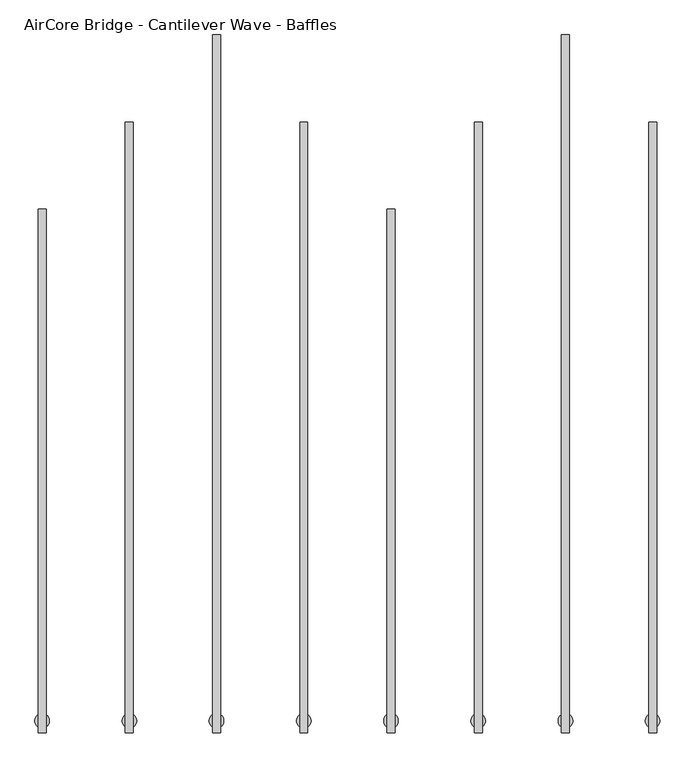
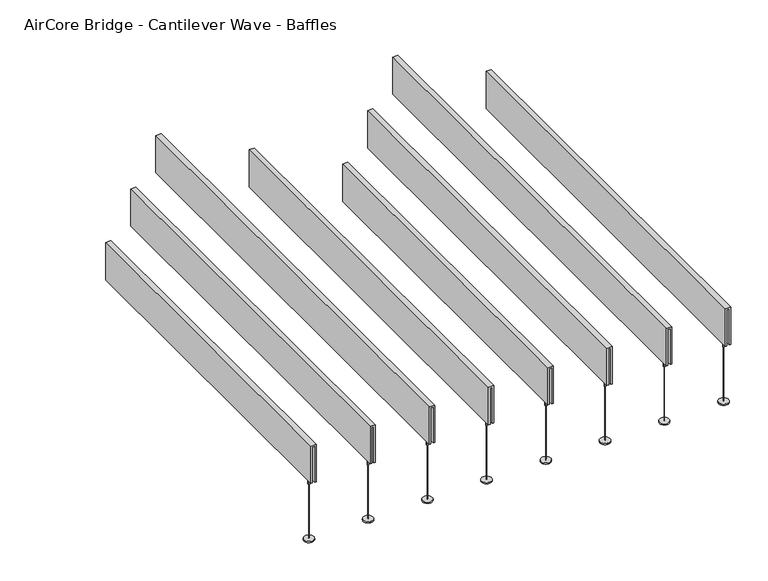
"""IFC4 building model written with IfcOpenShell, lengths in millimetres: light fixture geometry, Baffles_Fixture-Focal_Point-AirCore_Bridge-Cantilever_Wave : AirCore Bridge - Cantilever Wave - Baffles."""

import ifcopenshell
import ifcopenshell.guid

model = None  # the IFC model being written
_history = None  # IfcOwnerHistory: only IFC2X3 demands one
_inside = {}  # id of a spatial element -> (the spatial element, [elements in it])
_under = {}  # id of a project, library or spatial element -> (it, [spatial elements below it])
_declared = {}  # id of a project -> (the project, [libraries it declares])
_typed = {}  # id of a type object -> (the type object, [elements of that type])
_made_of = {}  # id of a material, layer set ... -> (it, [elements and type objects made of it])


def new_model(schema):
    """Start an empty IFC model of exactly this schema.

    Asked for "IFC4X3", IfcOpenShell would pick the latest addendum, in which some entities
    have other attributes; the version numbers below select the first issue.
    IFC2X3 requires an IfcOwnerHistory on every rooted entity: one is made here for all.
    """
    global model, _history
    if schema == "IFC4X3":
        model = ifcopenshell.file(schema_version=(4, 3, 0, 0))
    else:
        model = ifcopenshell.file(schema=schema)
    _inside.clear()
    _under.clear()
    _declared.clear()
    _typed.clear()
    _made_of.clear()
    _history = None
    if model.schema == "IFC2X3":
        org = make("IfcOrganization", Name="unknown")
        user = make(
            "IfcPersonAndOrganization",
            ThePerson=make("IfcPerson", FamilyName="unknown"),
            TheOrganization=org,
        )
        app = make(
            "IfcApplication",
            ApplicationDeveloper=org,
            Version="unknown",
            ApplicationFullName="unknown",
            ApplicationIdentifier="unknown",
        )
        _history = make(
            "IfcOwnerHistory",
            OwningUser=user,
            OwningApplication=app,
            ChangeAction="ADDED",
            CreationDate=0,
        )
    return model


def make(cls, **values):
    """One entity of the class cls with the attributes given. An attribute that is None is left unset."""
    return model.create_entity(
        cls, **{name: value for name, value in values.items() if value is not None}
    )


def rooted(cls, **values):
    """An entity with a GlobalId (a new one), such as an element, a storey or a relation."""
    return make(cls, GlobalId=ifcopenshell.guid.new(), OwnerHistory=_history, **values)


def si_unit(unit_type, name, prefix=None):
    """IfcSIUnit, for example si_unit("LENGTHUNIT", "METRE", prefix="MILLI")."""
    return make("IfcSIUnit", UnitType=unit_type, Prefix=prefix, Name=name)


def assignment(units):
    """IfcUnitAssignment: the units of a project."""
    return None if units is None else make("IfcUnitAssignment", Units=units)


def point(xyz):
    """IfcCartesianPoint."""
    return None if xyz is None else make("IfcCartesianPoint", Coordinates=xyz)


def direction(xyz):
    """IfcDirection."""
    return None if xyz is None else make("IfcDirection", DirectionRatios=xyz)


def frame(location, z_axis=None, x_axis=None):
    """IfcAxis2Placement3D, a coordinate frame: its origin and axes. An axis left out is left unset."""
    return make(
        "IfcAxis2Placement3D",
        Location=point(location),
        Axis=direction(z_axis),
        RefDirection=direction(x_axis),
    )


def frame_2d(location, x_axis=None):
    """IfcAxis2Placement2D, a coordinate frame in the plane: its origin and x axis."""
    return make(
        "IfcAxis2Placement2D", Location=point(location), RefDirection=direction(x_axis)
    )


def origin():
    """The frame at (0, 0, 0) with its axes left unset."""
    return frame((0.0, 0.0, 0.0))


def origin_with_axes():
    """The frame at (0, 0, 0) with the z axis (0, 0, 1) and the x axis (1, 0, 0) written out."""
    return frame((0.0, 0.0, 0.0), z_axis=(0.0, 0.0, 1.0), x_axis=(1.0, 0.0, 0.0))


def place(relative_to, where):
    """IfcLocalPlacement: puts the frame where relative to a parent placement (None: the world)."""
    return make(
        "IfcLocalPlacement", PlacementRelTo=relative_to, RelativePlacement=where
    )


def context(
    kind, dimensions, precision=None, world=None, true_north=None, identifier=None
):
    """IfcGeometricRepresentationContext, for example the 3D "Model" context."""
    return make(
        "IfcGeometricRepresentationContext",
        ContextIdentifier=identifier,
        ContextType=kind,
        CoordinateSpaceDimension=dimensions,
        Precision=precision,
        WorldCoordinateSystem=world,
        TrueNorth=true_north,
    )


def project(units=None, contexts=None):
    """IfcProject with its units and contexts."""
    return rooted(
        "IfcProject",
        Name="project",
        RepresentationContexts=contexts,
        UnitsInContext=assignment(units),
    )


def spatial(cls, under=None, at=None, **own):
    """A site, building, storey or space (cls), placed at a placement, below another one or the project."""
    s = rooted(cls, ObjectPlacement=at, **own)
    if under is not None:
        _under.setdefault(under.id(), (under, []))[1].append(s)
    return s


def polyline(points):
    """IfcPolyline through the points."""
    return make("IfcPolyline", Points=[point(p) for p in points])


def circle_curve(where, radius):
    """IfcCircle in the frame where."""
    return make("IfcCircle", Position=where, Radius=radius)


def trimmed(basis, trim1, trim2, sense, master):
    """IfcTrimmedCurve: the piece of a basis curve between two trims."""
    return make(
        "IfcTrimmedCurve",
        BasisCurve=basis,
        Trim1=trim1,
        Trim2=trim2,
        SenseAgreement=sense,
        MasterRepresentation=master,
    )


def segment(curve, same_sense, transition):
    """IfcCompositeCurveSegment."""
    return make(
        "IfcCompositeCurveSegment",
        Transition=transition,
        SameSense=same_sense,
        ParentCurve=curve,
    )


def composite_curve(segments, self_intersect=None):
    """IfcCompositeCurve: segments joined end to end."""
    return make("IfcCompositeCurve", Segments=segments, SelfIntersect=self_intersect)


def outline(outer, holes=None, kind="AREA"):
    """IfcArbitraryClosedProfileDef: a profile drawn as a closed curve; with holes, ...WithVoids."""
    if holes is None:
        return make("IfcArbitraryClosedProfileDef", ProfileType=kind, OuterCurve=outer)
    return make(
        "IfcArbitraryProfileDefWithVoids",
        ProfileType=kind,
        OuterCurve=outer,
        InnerCurves=holes,
    )


def extrude(swept, where, along, depth):
    """IfcExtrudedAreaSolid: the profile swept, set in the frame where, extruded along a direction by depth."""
    return make(
        "IfcExtrudedAreaSolid",
        SweptArea=swept,
        Position=where,
        ExtrudedDirection=direction(along),
        Depth=depth,
    )


def shape(context_of_items, identifier, shape_type, items):
    """IfcShapeRepresentation: the items that make up one representation, for example the "Body"."""
    return make(
        "IfcShapeRepresentation",
        ContextOfItems=context_of_items,
        RepresentationIdentifier=identifier,
        RepresentationType=shape_type,
        Items=items,
    )


def source(mapping_origin, context_of_items, identifier, shape_type, items):
    """IfcRepresentationMap: a shape defined once, which mapped items show again and again."""
    return make(
        "IfcRepresentationMap",
        MappingOrigin=mapping_origin,
        MappedRepresentation=shape(context_of_items, identifier, shape_type, items),
    )


def transform(
    local_origin,
    x_axis=None,
    y_axis=None,
    z_axis=None,
    scale=None,
    scale2=None,
    scale3=None,
    uniform=True,
):
    """IfcCartesianTransformationOperator3D, or its non-uniform kind. x_axis, y_axis, z_axis: its Axis1, 2, 3."""
    if uniform:
        return make(
            "IfcCartesianTransformationOperator3D",
            Axis1=direction(x_axis),
            Axis2=direction(y_axis),
            LocalOrigin=point(local_origin),
            Scale=scale,
            Axis3=direction(z_axis),
        )
    return make(
        "IfcCartesianTransformationOperator3DnonUniform",
        Axis1=direction(x_axis),
        Axis2=direction(y_axis),
        LocalOrigin=point(local_origin),
        Scale=scale,
        Axis3=direction(z_axis),
        Scale2=scale2,
        Scale3=scale3,
    )


def mapped(mapping_source, mapping_target):
    """IfcMappedItem: shows the shape of a source again, moved by a transform."""
    return make(
        "IfcMappedItem", MappingSource=mapping_source, MappingTarget=mapping_target
    )


def made_of(thing, what):
    """Note that an element or type object is made of a material, layer set ...; save() writes the relation."""
    if what is not None:
        _made_of.setdefault(what.id(), (what, []))[1].append(thing)
    return thing


def element(
    cls,
    number,
    at=None,
    inside=None,
    cuts=None,
    type_object=None,
    material=None,
    context=None,
    identifier="Body",
    shape_type=None,
    held_by="IfcProductDefinitionShape",
    body=None,
    shapes=None,
    **own,
):
    """One element of the class cls, such as IfcWall. Its Tag is "e" and its number.

    at: its placement. inside: the storey or other place that contains it. cuts: it is an
    opening in that element (IfcRelVoidsElement). A single representation is given by context,
    identifier, shape_type and body (its items); several are given by shapes. held_by: the class
    of the entity that holds the representations. save() writes the other relations.
    """
    e = rooted(cls, Tag="e%d" % number, ObjectPlacement=at, **own)
    if body is not None:
        shapes = [shape(context, identifier, shape_type, body)]
    if shapes is not None:
        e.Representation = make(held_by, Representations=shapes)
    if inside is not None:
        _inside.setdefault(inside.id(), (inside, []))[1].append(e)
    if cuts is not None:
        rooted(
            "IfcRelVoidsElement", RelatingBuildingElement=cuts, RelatedOpeningElement=e
        )
    if type_object is not None:
        _typed.setdefault(type_object.id(), (type_object, []))[1].append(e)
    return made_of(e, material)


def aggregate(whole, parts):
    """IfcRelAggregates: a whole, such as a stair, and the parts it consists of."""
    return rooted("IfcRelAggregates", RelatingObject=whole, RelatedObjects=parts)


def save(model, path):
    """Write the relations noted so far, then the file.

    IfcRelAggregates (storeys below a building ...), IfcRelContainedInSpatialStructure (elements
    in a storey), IfcRelDefinesByType, IfcRelAssociatesMaterial and IfcRelDeclares: one each for
    every whole, place, type object, material and project.
    """
    for whole, parts in _under.values():
        aggregate(whole, parts)
    for where, things in _inside.values():
        rooted(
            "IfcRelContainedInSpatialStructure",
            RelatedElements=things,
            RelatingStructure=where,
        )
    for kind, things in _typed.values():
        rooted("IfcRelDefinesByType", RelatedObjects=things, RelatingType=kind)
    for what, things in _made_of.values():
        rooted("IfcRelAssociatesMaterial", RelatedObjects=things, RelatingMaterial=what)
    for by, libraries in _declared.values():
        rooted("IfcRelDeclares", RelatingContext=by, RelatedDefinitions=libraries)
    model.write(path)


def plane_surface(at):
    """IfcPlane: the flat surface through the origin of the frame at, square to its z axis."""
    return make("IfcPlane", Position=at)


def cylinder_surface(at, radius):
    """IfcCylindricalSurface: all points at the distance radius from the z axis of the frame at."""
    return make("IfcCylindricalSurface", Position=at, Radius=radius)


def advanced_brep(points, edges, surfaces, faces):
    """IfcAdvancedBrep: a solid bounded by faces that lie on surfaces and meet in shared edges.

    An edge is (start, end): straight between two places in points (the first is 0);
    or (start, end, curve); or (start, end, curve, False) where it runs against its curve.
    A face is (place in surfaces, loops), or (place, loops, False) where it looks against
    its surface's normal. A loop lists edges by number (the first is 1), with a minus sign
    where the edge is run from its end to its start. The first loop is the outer one.
    """
    corners = [point(p) for p in points]
    vertices = [make("IfcVertexPoint", VertexGeometry=c) for c in corners]
    made = []
    for start, end, *more in edges:
        made.append(
            make(
                "IfcEdgeCurve",
                EdgeStart=vertices[start],
                EdgeEnd=vertices[end],
                EdgeGeometry=more[0] if more else make("IfcPolyline", Points=[corners[start], corners[end]]),
                SameSense=more[1] if len(more) > 1 else True,
            )
        )
    hull = []
    for where, loops, *sense in faces:
        bounds = []
        for j, loop in enumerate(loops):
            ring = [make("IfcOrientedEdge", EdgeElement=made[abs(k) - 1], Orientation=k > 0) for k in loop]
            bounds.append(
                make(
                    "IfcFaceOuterBound" if j == 0 else "IfcFaceBound",
                    Bound=make("IfcEdgeLoop", EdgeList=ring),
                    Orientation=True,
                )
            )
        hull.append(make("IfcAdvancedFace", Bounds=bounds, FaceSurface=surfaces[where], SameSense=sense[0] if sense else True))
    return make("IfcAdvancedBrep", Outer=make("IfcClosedShell", CfsFaces=hull))


def aircore_bridge_cantilever_wave_baffles_63261213(model_context):
    return source(origin(), model_context, "Body", "SolidModel", [
        advanced_brep(
        [(1065.8762465, -1635.125, 0.0), (1067.7237535, -1635.125, 0.0), (1066.8, -1635.125, 0.0), (1065.8762465, -1635.125, 302.2203125), (1067.7237535, -1635.125, 302.2203125), (1062.83125, -1635.125, 302.2203125), (1070.76875, -1635.125, 302.2203125), (1062.83125, -1635.125, 346.6703125), (1070.76875, -1635.125, 346.6703125), (1066.8, -1635.125, 346.6703125)],
        [
            (0, 1, circle_curve(frame((1066.8, -1635.125, 0.0), z_axis=(0.0, 0.0, -1.0), x_axis=(1.0, 0.0, 0.0)), 0.9237535)),
            (1, 2),
            (2, 0),
            (1, 0, circle_curve(frame((1066.8, -1635.125, 0.0), z_axis=(0.0, 0.0, -1.0), x_axis=(1.0, 0.0, 0.0)), 0.9237535)),
            (3, 4, circle_curve(frame((1066.8, -1635.125, 302.2203125), z_axis=(0.0, 0.0, -1.0), x_axis=(1.0, 0.0, 0.0)), 0.9237535)),
            (4, 1),
            (0, 3),
            (4, 3, circle_curve(frame((1066.8, -1635.125, 302.2203125), z_axis=(0.0, 0.0, -1.0), x_axis=(1.0, 0.0, 0.0)), 0.9237535)),
            (5, 6, circle_curve(frame((1066.8, -1635.125, 302.2203125), z_axis=(0.0, 0.0, -1.0), x_axis=(1.0, 0.0, 0.0)), 3.96875)),
            (6, 4),
            (3, 5),
            (6, 5, circle_curve(frame((1066.8, -1635.125, 302.2203125), z_axis=(0.0, 0.0, -1.0), x_axis=(1.0, 0.0, 0.0)), 3.96875)),
            (7, 8, circle_curve(frame((1066.8, -1635.125, 346.6703125), z_axis=(0.0, 0.0, -1.0), x_axis=(1.0, 0.0, 0.0)), 3.96875)),
            (8, 6),
            (5, 7),
            (8, 7, circle_curve(frame((1066.8, -1635.125, 346.6703125), z_axis=(0.0, 0.0, -1.0), x_axis=(1.0, 0.0, 0.0)), 3.96875)),
            (9, 8),
            (7, 9),
        ],
        [
            plane_surface(frame((1066.8, -1635.125, 0.0), z_axis=(0.0, 0.0, -1.0), x_axis=(1.0, 0.0, 0.0))),
            cylinder_surface(frame((1066.8, -1635.125, 391.1203125), z_axis=(0.0, 0.0, 1.0), x_axis=(1.0, 0.0, 0.0)), 0.9237535),
            plane_surface(frame((1066.8, -1635.125, 302.2203125), z_axis=(0.0, 0.0, -1.0), x_axis=(1.0, 0.0, 0.0))),
            cylinder_surface(frame((1066.8, -1635.125, 391.1203125), z_axis=(0.0, 0.0, 1.0), x_axis=(1.0, 0.0, 0.0)), 3.96875),
            plane_surface(frame((1066.8, -1635.125, 346.6703125), z_axis=(0.0, 0.0, 1.0), x_axis=(1.0, 0.0, 0.0))),
        ],
        [
            (0, [[1, 2, 3]]),
            (0, [[4, -3, -2]]),
            (1, [[5, 6, -1, 7]]),
            (1, [[8, -7, -4, -6]]),
            (2, [[9, 10, -5, 11]]),
            (2, [[12, -11, -8, -10]]),
            (3, [[13, 14, -9, 15]]),
            (3, [[16, -15, -12, -14]]),
            (4, [[17, -13, 18]]),
            (4, [[-18, -16, -17]]),
        ],
    ),
        extrude(outline(composite_curve([segment(trimmed(circle_curve(frame_2d((1066.8, -1635.125)), 25.4), [point((1066.8, -1660.525))], [point((1066.8, -1609.725))], False, "CARTESIAN"), True, "CONTINUOUS"), segment(trimmed(circle_curve(frame_2d((1066.8, -1635.125)), 25.4), [point((1066.8, -1609.725))], [point((1066.8, -1660.525))], False, "CARTESIAN"), True, "CONTINUOUS")], self_intersect=False)), origin_with_axes(), (0.0, 0.0, 1.0), 6.35),
        advanced_brep(
        [(761.0762465, -1635.125, 0.0), (762.9237535, -1635.125, 0.0), (762.0, -1635.125, 0.0), (761.0762465, -1635.125, 302.2203125), (762.9237535, -1635.125, 302.2203125), (758.03125, -1635.125, 302.2203125), (765.96875, -1635.125, 302.2203125), (758.03125, -1635.125, 346.6703125), (765.96875, -1635.125, 346.6703125), (762.0, -1635.125, 346.6703125)],
        [
            (0, 1, circle_curve(frame((762.0, -1635.125, 0.0), z_axis=(0.0, 0.0, -1.0), x_axis=(1.0, 0.0, 0.0)), 0.9237535)),
            (1, 2),
            (2, 0),
            (1, 0, circle_curve(frame((762.0, -1635.125, 0.0), z_axis=(0.0, 0.0, -1.0), x_axis=(1.0, 0.0, 0.0)), 0.9237535)),
            (3, 4, circle_curve(frame((762.0, -1635.125, 302.2203125), z_axis=(0.0, 0.0, -1.0), x_axis=(1.0, 0.0, 0.0)), 0.9237535)),
            (4, 1),
            (0, 3),
            (4, 3, circle_curve(frame((762.0, -1635.125, 302.2203125), z_axis=(0.0, 0.0, -1.0), x_axis=(1.0, 0.0, 0.0)), 0.9237535)),
            (5, 6, circle_curve(frame((762.0, -1635.125, 302.2203125), z_axis=(0.0, 0.0, -1.0), x_axis=(1.0, 0.0, 0.0)), 3.96875)),
            (6, 4),
            (3, 5),
            (6, 5, circle_curve(frame((762.0, -1635.125, 302.2203125), z_axis=(0.0, 0.0, -1.0), x_axis=(1.0, 0.0, 0.0)), 3.96875)),
            (7, 8, circle_curve(frame((762.0, -1635.125, 346.6703125), z_axis=(0.0, 0.0, -1.0), x_axis=(1.0, 0.0, 0.0)), 3.96875)),
            (8, 6),
            (5, 7),
            (8, 7, circle_curve(frame((762.0, -1635.125, 346.6703125), z_axis=(0.0, 0.0, -1.0), x_axis=(1.0, 0.0, 0.0)), 3.96875)),
            (9, 8),
            (7, 9),
        ],
        [
            plane_surface(frame((762.0, -1635.125, 0.0), z_axis=(0.0, 0.0, -1.0), x_axis=(1.0, 0.0, 0.0))),
            cylinder_surface(frame((762.0, -1635.125, 391.1203125), z_axis=(0.0, 0.0, 1.0), x_axis=(1.0, 0.0, 0.0)), 0.9237535),
            plane_surface(frame((762.0, -1635.125, 302.2203125), z_axis=(0.0, 0.0, -1.0), x_axis=(1.0, 0.0, 0.0))),
            cylinder_surface(frame((762.0, -1635.125, 391.1203125), z_axis=(0.0, 0.0, 1.0), x_axis=(1.0, 0.0, 0.0)), 3.96875),
            plane_surface(frame((762.0, -1635.125, 346.6703125), z_axis=(0.0, 0.0, 1.0), x_axis=(1.0, 0.0, 0.0))),
        ],
        [
            (0, [[1, 2, 3]]),
            (0, [[4, -3, -2]]),
            (1, [[5, 6, -1, 7]]),
            (1, [[8, -7, -4, -6]]),
            (2, [[9, 10, -5, 11]]),
            (2, [[12, -11, -8, -10]]),
            (3, [[13, 14, -9, 15]]),
            (3, [[16, -15, -12, -14]]),
            (4, [[17, -13, 18]]),
            (4, [[-18, -16, -17]]),
        ],
    ),
        extrude(outline(composite_curve([segment(trimmed(circle_curve(frame_2d((762.0, -1635.125)), 25.4), [point((762.0, -1660.525))], [point((762.0, -1609.725))], False, "CARTESIAN"), True, "CONTINUOUS"), segment(trimmed(circle_curve(frame_2d((762.0, -1635.125)), 25.4), [point((762.0, -1609.725))], [point((762.0, -1660.525))], False, "CARTESIAN"), True, "CONTINUOUS")], self_intersect=False)), origin_with_axes(), (0.0, 0.0, 1.0), 6.35),
        advanced_brep(
        [(456.2762465, -1635.125, 0.0), (458.1237535, -1635.125, 0.0), (457.2, -1635.125, 0.0), (456.2762465, -1635.125, 302.2203125), (458.1237535, -1635.125, 302.2203125), (453.23125, -1635.125, 302.2203125), (461.16875, -1635.125, 302.2203125), (453.23125, -1635.125, 346.6703125), (461.16875, -1635.125, 346.6703125), (457.2, -1635.125, 346.6703125)],
        [
            (0, 1, circle_curve(frame((457.2, -1635.125, 0.0), z_axis=(0.0, 0.0, -1.0), x_axis=(1.0, 0.0, 0.0)), 0.9237535)),
            (1, 2),
            (2, 0),
            (1, 0, circle_curve(frame((457.2, -1635.125, 0.0), z_axis=(0.0, 0.0, -1.0), x_axis=(1.0, 0.0, 0.0)), 0.9237535)),
            (3, 4, circle_curve(frame((457.2, -1635.125, 302.2203125), z_axis=(0.0, 0.0, -1.0), x_axis=(1.0, 0.0, 0.0)), 0.9237535)),
            (4, 1),
            (0, 3),
            (4, 3, circle_curve(frame((457.2, -1635.125, 302.2203125), z_axis=(0.0, 0.0, -1.0), x_axis=(1.0, 0.0, 0.0)), 0.9237535)),
            (5, 6, circle_curve(frame((457.2, -1635.125, 302.2203125), z_axis=(0.0, 0.0, -1.0), x_axis=(1.0, 0.0, 0.0)), 3.96875)),
            (6, 4),
            (3, 5),
            (6, 5, circle_curve(frame((457.2, -1635.125, 302.2203125), z_axis=(0.0, 0.0, -1.0), x_axis=(1.0, 0.0, 0.0)), 3.96875)),
            (7, 8, circle_curve(frame((457.2, -1635.125, 346.6703125), z_axis=(0.0, 0.0, -1.0), x_axis=(1.0, 0.0, 0.0)), 3.96875)),
            (8, 6),
            (5, 7),
            (8, 7, circle_curve(frame((457.2, -1635.125, 346.6703125), z_axis=(0.0, 0.0, -1.0), x_axis=(1.0, 0.0, 0.0)), 3.96875)),
            (9, 8),
            (7, 9),
        ],
        [
            plane_surface(frame((457.2, -1635.125, 0.0), z_axis=(0.0, 0.0, -1.0), x_axis=(1.0, 0.0, 0.0))),
            cylinder_surface(frame((457.2, -1635.125, 391.1203125), z_axis=(0.0, 0.0, 1.0), x_axis=(1.0, 0.0, 0.0)), 0.9237535),
            plane_surface(frame((457.2, -1635.125, 302.2203125), z_axis=(0.0, 0.0, -1.0), x_axis=(1.0, 0.0, 0.0))),
            cylinder_surface(frame((457.2, -1635.125, 391.1203125), z_axis=(0.0, 0.0, 1.0), x_axis=(1.0, 0.0, 0.0)), 3.96875),
            plane_surface(frame((457.2, -1635.125, 346.6703125), z_axis=(0.0, 0.0, 1.0), x_axis=(1.0, 0.0, 0.0))),
        ],
        [
            (0, [[1, 2, 3]]),
            (0, [[4, -3, -2]]),
            (1, [[5, 6, -1, 7]]),
            (1, [[8, -7, -4, -6]]),
            (2, [[9, 10, -5, 11]]),
            (2, [[12, -11, -8, -10]]),
            (3, [[13, 14, -9, 15]]),
            (3, [[16, -15, -12, -14]]),
            (4, [[17, -13, 18]]),
            (4, [[-18, -16, -17]]),
        ],
    ),
        extrude(outline(composite_curve([segment(trimmed(circle_curve(frame_2d((457.2, -1635.125)), 25.4), [point((457.2, -1660.525))], [point((457.2, -1609.725))], False, "CARTESIAN"), True, "CONTINUOUS"), segment(trimmed(circle_curve(frame_2d((457.2, -1635.125)), 25.4), [point((457.2, -1609.725))], [point((457.2, -1660.525))], False, "CARTESIAN"), True, "CONTINUOUS")], self_intersect=False)), origin_with_axes(), (0.0, 0.0, 1.0), 6.35),
        extrude(outline(polyline([(1060.846875, 428.625), (1072.753125, 428.625), (1072.753125, -1647.825), (1060.846875, -1647.825), (1060.846875, 428.625)])), frame((0.0, 0.0, 333.9703125), z_axis=(0.0, 0.0, 1.0), x_axis=(1.0, 0.0, 0.0)), (0.0, 0.0, 1.0), 195.2625),
        extrude(outline(polyline([(537.1703125, 1080.690625), (537.1703125, 1052.909375), (333.9703125, 1052.909375), (333.9703125, 1060.846875), (529.2328125, 1060.846875), (529.2328125, 1072.753125), (333.9703125, 1072.753125), (333.9703125, 1080.690625), (537.1703125, 1080.690625)])), frame((0.0, -1676.4, 0.0), z_axis=(0.0, 1.0, 0.0), x_axis=(0.0, 0.0, 1.0)), (0.0, 0.0, 1.0), 2133.6),
        extrude(outline(polyline([(756.046875, 733.425), (767.953125, 733.425), (767.953125, -1647.825), (756.046875, -1647.825), (756.046875, 733.425)])), frame((0.0, 0.0, 333.9703125), z_axis=(0.0, 0.0, 1.0), x_axis=(1.0, 0.0, 0.0)), (0.0, 0.0, 1.0), 195.2625),
        extrude(outline(polyline([(537.1703125, 775.890625), (537.1703125, 748.109375), (333.9703125, 748.109375), (333.9703125, 756.046875), (529.2328125, 756.046875), (529.2328125, 767.953125), (333.9703125, 767.953125), (333.9703125, 775.890625), (537.1703125, 775.890625)])), frame((0.0, -1676.4, 0.0), z_axis=(0.0, 1.0, 0.0), x_axis=(0.0, 0.0, 1.0)), (0.0, 0.0, 1.0), 2438.4),
        extrude(outline(polyline([(451.246875, 428.625), (463.153125, 428.625), (463.153125, -1647.825), (451.246875, -1647.825), (451.246875, 428.625)])), frame((0.0, 0.0, 333.9703125), z_axis=(0.0, 0.0, 1.0), x_axis=(1.0, 0.0, 0.0)), (0.0, 0.0, 1.0), 195.2625),
        extrude(outline(polyline([(537.1703125, 471.090625), (537.1703125, 443.309375), (333.9703125, 443.309375), (333.9703125, 451.246875), (529.2328125, 451.246875), (529.2328125, 463.153125), (333.9703125, 463.153125), (333.9703125, 471.090625), (537.1703125, 471.090625)])), frame((0.0, -1676.4, 0.0), z_axis=(0.0, 1.0, 0.0), x_axis=(0.0, 0.0, 1.0)), (0.0, 0.0, 1.0), 2133.6),
        extrude(outline(polyline([(146.446875, 123.825), (158.353125, 123.825), (158.353125, -1647.825), (146.446875, -1647.825), (146.446875, 123.825)])), frame((0.0, 0.0, 333.9703125), z_axis=(0.0, 0.0, 1.0), x_axis=(1.0, 0.0, 0.0)), (0.0, 0.0, 1.0), 195.2625),
        extrude(outline(polyline([(537.1703125, 166.290625), (537.1703125, 138.509375), (333.9703125, 138.509375), (333.9703125, 146.446875), (529.2328125, 146.446875), (529.2328125, 158.353125), (333.9703125, 158.353125), (333.9703125, 166.290625), (537.1703125, 166.290625)])), frame((0.0, -1676.4, 0.0), z_axis=(0.0, 1.0, 0.0), x_axis=(0.0, 0.0, 1.0)), (0.0, 0.0, 1.0), 1828.8),
        advanced_brep(
        [(151.4762465, -1635.125, 0.0), (153.3237535, -1635.125, 0.0), (152.4, -1635.125, 0.0), (151.4762465, -1635.125, 302.2203125), (153.3237535, -1635.125, 302.2203125), (148.43125, -1635.125, 302.2203125), (156.36875, -1635.125, 302.2203125), (148.43125, -1635.125, 346.6703125), (156.36875, -1635.125, 346.6703125), (152.4, -1635.125, 346.6703125)],
        [
            (0, 1, circle_curve(frame((152.4, -1635.125, 0.0), z_axis=(0.0, 0.0, -1.0), x_axis=(1.0, 0.0, 0.0)), 0.9237535)),
            (1, 2),
            (2, 0),
            (1, 0, circle_curve(frame((152.4, -1635.125, 0.0), z_axis=(0.0, 0.0, -1.0), x_axis=(1.0, 0.0, 0.0)), 0.9237535)),
            (3, 4, circle_curve(frame((152.4, -1635.125, 302.2203125), z_axis=(0.0, 0.0, -1.0), x_axis=(1.0, 0.0, 0.0)), 0.9237535)),
            (4, 1),
            (0, 3),
            (4, 3, circle_curve(frame((152.4, -1635.125, 302.2203125), z_axis=(0.0, 0.0, -1.0), x_axis=(1.0, 0.0, 0.0)), 0.9237535)),
            (5, 6, circle_curve(frame((152.4, -1635.125, 302.2203125), z_axis=(0.0, 0.0, -1.0), x_axis=(1.0, 0.0, 0.0)), 3.96875)),
            (6, 4),
            (3, 5),
            (6, 5, circle_curve(frame((152.4, -1635.125, 302.2203125), z_axis=(0.0, 0.0, -1.0), x_axis=(1.0, 0.0, 0.0)), 3.96875)),
            (7, 8, circle_curve(frame((152.4, -1635.125, 346.6703125), z_axis=(0.0, 0.0, -1.0), x_axis=(1.0, 0.0, 0.0)), 3.96875)),
            (8, 6),
            (5, 7),
            (8, 7, circle_curve(frame((152.4, -1635.125, 346.6703125), z_axis=(0.0, 0.0, -1.0), x_axis=(1.0, 0.0, 0.0)), 3.96875)),
            (9, 8),
            (7, 9),
        ],
        [
            plane_surface(frame((152.4, -1635.125, 0.0), z_axis=(0.0, 0.0, -1.0), x_axis=(1.0, 0.0, 0.0))),
            cylinder_surface(frame((152.4, -1635.125, 391.1203125), z_axis=(0.0, 0.0, 1.0), x_axis=(1.0, 0.0, 0.0)), 0.9237535),
            plane_surface(frame((152.4, -1635.125, 302.2203125), z_axis=(0.0, 0.0, -1.0), x_axis=(1.0, 0.0, 0.0))),
            cylinder_surface(frame((152.4, -1635.125, 391.1203125), z_axis=(0.0, 0.0, 1.0), x_axis=(1.0, 0.0, 0.0)), 3.96875),
            plane_surface(frame((152.4, -1635.125, 346.6703125), z_axis=(0.0, 0.0, 1.0), x_axis=(1.0, 0.0, 0.0))),
        ],
        [
            (0, [[1, 2, 3]]),
            (0, [[4, -3, -2]]),
            (1, [[5, 6, -1, 7]]),
            (1, [[8, -7, -4, -6]]),
            (2, [[9, 10, -5, 11]]),
            (2, [[12, -11, -8, -10]]),
            (3, [[13, 14, -9, 15]]),
            (3, [[16, -15, -12, -14]]),
            (4, [[17, -13, 18]]),
            (4, [[-18, -16, -17]]),
        ],
    ),
        extrude(outline(composite_curve([segment(trimmed(circle_curve(frame_2d((152.4, -1635.125)), 25.4), [point((152.4, -1660.525))], [point((152.4, -1609.725))], False, "CARTESIAN"), True, "CONTINUOUS"), segment(trimmed(circle_curve(frame_2d((152.4, -1635.125)), 25.4), [point((152.4, -1609.725))], [point((152.4, -1660.525))], False, "CARTESIAN"), True, "CONTINUOUS")], self_intersect=False)), origin_with_axes(), (0.0, 0.0, 1.0), 6.35),
        advanced_brep(
        [(-153.3237535, -1635.125, 0.0), (-151.4762465, -1635.125, 0.0), (-152.4, -1635.125, 0.0), (-153.3237535, -1635.125, 302.2203125), (-151.4762465, -1635.125, 302.2203125), (-156.36875, -1635.125, 302.2203125), (-148.43125, -1635.125, 302.2203125), (-156.36875, -1635.125, 346.6703125), (-148.43125, -1635.125, 346.6703125), (-152.4, -1635.125, 346.6703125)],
        [
            (0, 1, circle_curve(frame((-152.4, -1635.125, 0.0), z_axis=(0.0, 0.0, -1.0), x_axis=(1.0, 0.0, 0.0)), 0.9237535)),
            (1, 2),
            (2, 0),
            (1, 0, circle_curve(frame((-152.4, -1635.125, 0.0), z_axis=(0.0, 0.0, -1.0), x_axis=(1.0, 0.0, 0.0)), 0.9237535)),
            (3, 4, circle_curve(frame((-152.4, -1635.125, 302.2203125), z_axis=(0.0, 0.0, -1.0), x_axis=(1.0, 0.0, 0.0)), 0.9237535)),
            (4, 1),
            (0, 3),
            (4, 3, circle_curve(frame((-152.4, -1635.125, 302.2203125), z_axis=(0.0, 0.0, -1.0), x_axis=(1.0, 0.0, 0.0)), 0.9237535)),
            (5, 6, circle_curve(frame((-152.4, -1635.125, 302.2203125), z_axis=(0.0, 0.0, -1.0), x_axis=(1.0, 0.0, 0.0)), 3.96875)),
            (6, 4),
            (3, 5),
            (6, 5, circle_curve(frame((-152.4, -1635.125, 302.2203125), z_axis=(0.0, 0.0, -1.0), x_axis=(1.0, 0.0, 0.0)), 3.96875)),
            (7, 8, circle_curve(frame((-152.4, -1635.125, 346.6703125), z_axis=(0.0, 0.0, -1.0), x_axis=(1.0, 0.0, 0.0)), 3.96875)),
            (8, 6),
            (5, 7),
            (8, 7, circle_curve(frame((-152.4, -1635.125, 346.6703125), z_axis=(0.0, 0.0, -1.0), x_axis=(1.0, 0.0, 0.0)), 3.96875)),
            (9, 8),
            (7, 9),
        ],
        [
            plane_surface(frame((-152.4, -1635.125, 0.0), z_axis=(0.0, 0.0, -1.0), x_axis=(1.0, 0.0, 0.0))),
            cylinder_surface(frame((-152.4, -1635.125, 391.1203125), z_axis=(0.0, 0.0, 1.0), x_axis=(1.0, 0.0, 0.0)), 0.9237535),
            plane_surface(frame((-152.4, -1635.125, 302.2203125), z_axis=(0.0, 0.0, -1.0), x_axis=(1.0, 0.0, 0.0))),
            cylinder_surface(frame((-152.4, -1635.125, 391.1203125), z_axis=(0.0, 0.0, 1.0), x_axis=(1.0, 0.0, 0.0)), 3.96875),
            plane_surface(frame((-152.4, -1635.125, 346.6703125), z_axis=(0.0, 0.0, 1.0), x_axis=(1.0, 0.0, 0.0))),
        ],
        [
            (0, [[1, 2, 3]]),
            (0, [[4, -3, -2]]),
            (1, [[5, 6, -1, 7]]),
            (1, [[8, -7, -4, -6]]),
            (2, [[9, 10, -5, 11]]),
            (2, [[12, -11, -8, -10]]),
            (3, [[13, 14, -9, 15]]),
            (3, [[16, -15, -12, -14]]),
            (4, [[17, -13, 18]]),
            (4, [[-18, -16, -17]]),
        ],
    ),
        extrude(outline(composite_curve([segment(trimmed(circle_curve(frame_2d((-152.4, -1635.125)), 25.4), [point((-152.4, -1660.525))], [point((-152.4, -1609.725))], False, "CARTESIAN"), True, "CONTINUOUS"), segment(trimmed(circle_curve(frame_2d((-152.4, -1635.125)), 25.4), [point((-152.4, -1609.725))], [point((-152.4, -1660.525))], False, "CARTESIAN"), True, "CONTINUOUS")], self_intersect=False)), origin_with_axes(), (0.0, 0.0, 1.0), 6.35),
        advanced_brep(
        [(-458.1237535, -1635.125, 0.0), (-456.2762465, -1635.125, 0.0), (-457.2, -1635.125, 0.0), (-458.1237535, -1635.125, 302.2203125), (-456.2762465, -1635.125, 302.2203125), (-461.16875, -1635.125, 302.2203125), (-453.23125, -1635.125, 302.2203125), (-461.16875, -1635.125, 346.6703125), (-453.23125, -1635.125, 346.6703125), (-457.2, -1635.125, 346.6703125)],
        [
            (0, 1, circle_curve(frame((-457.2, -1635.125, 0.0), z_axis=(0.0, 0.0, -1.0), x_axis=(1.0, 0.0, 0.0)), 0.9237535)),
            (1, 2),
            (2, 0),
            (1, 0, circle_curve(frame((-457.2, -1635.125, 0.0), z_axis=(0.0, 0.0, -1.0), x_axis=(1.0, 0.0, 0.0)), 0.9237535)),
            (3, 4, circle_curve(frame((-457.2, -1635.125, 302.2203125), z_axis=(0.0, 0.0, -1.0), x_axis=(1.0, 0.0, 0.0)), 0.9237535)),
            (4, 1),
            (0, 3),
            (4, 3, circle_curve(frame((-457.2, -1635.125, 302.2203125), z_axis=(0.0, 0.0, -1.0), x_axis=(1.0, 0.0, 0.0)), 0.9237535)),
            (5, 6, circle_curve(frame((-457.2, -1635.125, 302.2203125), z_axis=(0.0, 0.0, -1.0), x_axis=(1.0, 0.0, 0.0)), 3.96875)),
            (6, 4),
            (3, 5),
            (6, 5, circle_curve(frame((-457.2, -1635.125, 302.2203125), z_axis=(0.0, 0.0, -1.0), x_axis=(1.0, 0.0, 0.0)), 3.96875)),
            (7, 8, circle_curve(frame((-457.2, -1635.125, 346.6703125), z_axis=(0.0, 0.0, -1.0), x_axis=(1.0, 0.0, 0.0)), 3.96875)),
            (8, 6),
            (5, 7),
            (8, 7, circle_curve(frame((-457.2, -1635.125, 346.6703125), z_axis=(0.0, 0.0, -1.0), x_axis=(1.0, 0.0, 0.0)), 3.96875)),
            (9, 8),
            (7, 9),
        ],
        [
            plane_surface(frame((-457.2, -1635.125, 0.0), z_axis=(0.0, 0.0, -1.0), x_axis=(1.0, 0.0, 0.0))),
            cylinder_surface(frame((-457.2, -1635.125, 391.1203125), z_axis=(0.0, 0.0, 1.0), x_axis=(1.0, 0.0, 0.0)), 0.9237535),
            plane_surface(frame((-457.2, -1635.125, 302.2203125), z_axis=(0.0, 0.0, -1.0), x_axis=(1.0, 0.0, 0.0))),
            cylinder_surface(frame((-457.2, -1635.125, 391.1203125), z_axis=(0.0, 0.0, 1.0), x_axis=(1.0, 0.0, 0.0)), 3.96875),
            plane_surface(frame((-457.2, -1635.125, 346.6703125), z_axis=(0.0, 0.0, 1.0), x_axis=(1.0, 0.0, 0.0))),
        ],
        [
            (0, [[1, 2, 3]]),
            (0, [[4, -3, -2]]),
            (1, [[5, 6, -1, 7]]),
            (1, [[8, -7, -4, -6]]),
            (2, [[9, 10, -5, 11]]),
            (2, [[12, -11, -8, -10]]),
            (3, [[13, 14, -9, 15]]),
            (3, [[16, -15, -12, -14]]),
            (4, [[17, -13, 18]]),
            (4, [[-18, -16, -17]]),
        ],
    ),
        extrude(outline(composite_curve([segment(trimmed(circle_curve(frame_2d((-457.2, -1635.125)), 25.4), [point((-457.2, -1660.525))], [point((-457.2, -1609.725))], False, "CARTESIAN"), True, "CONTINUOUS"), segment(trimmed(circle_curve(frame_2d((-457.2, -1635.125)), 25.4), [point((-457.2, -1609.725))], [point((-457.2, -1660.525))], False, "CARTESIAN"), True, "CONTINUOUS")], self_intersect=False)), origin_with_axes(), (0.0, 0.0, 1.0), 6.35),
        advanced_brep(
        [(-762.9237535, -1635.125, 0.0), (-761.0762465, -1635.125, 0.0), (-762.0, -1635.125, 0.0), (-762.9237535, -1635.125, 302.2203125), (-761.0762465, -1635.125, 302.2203125), (-765.96875, -1635.125, 302.2203125), (-758.03125, -1635.125, 302.2203125), (-765.96875, -1635.125, 346.6703125), (-758.03125, -1635.125, 346.6703125), (-762.0, -1635.125, 346.6703125)],
        [
            (0, 1, circle_curve(frame((-762.0, -1635.125, 0.0), z_axis=(0.0, 0.0, -1.0), x_axis=(1.0, 0.0, 0.0)), 0.9237535)),
            (1, 2),
            (2, 0),
            (1, 0, circle_curve(frame((-762.0, -1635.125, 0.0), z_axis=(0.0, 0.0, -1.0), x_axis=(1.0, 0.0, 0.0)), 0.9237535)),
            (3, 4, circle_curve(frame((-762.0, -1635.125, 302.2203125), z_axis=(0.0, 0.0, -1.0), x_axis=(1.0, 0.0, 0.0)), 0.9237535)),
            (4, 1),
            (0, 3),
            (4, 3, circle_curve(frame((-762.0, -1635.125, 302.2203125), z_axis=(0.0, 0.0, -1.0), x_axis=(1.0, 0.0, 0.0)), 0.9237535)),
            (5, 6, circle_curve(frame((-762.0, -1635.125, 302.2203125), z_axis=(0.0, 0.0, -1.0), x_axis=(1.0, 0.0, 0.0)), 3.96875)),
            (6, 4),
            (3, 5),
            (6, 5, circle_curve(frame((-762.0, -1635.125, 302.2203125), z_axis=(0.0, 0.0, -1.0), x_axis=(1.0, 0.0, 0.0)), 3.96875)),
            (7, 8, circle_curve(frame((-762.0, -1635.125, 346.6703125), z_axis=(0.0, 0.0, -1.0), x_axis=(1.0, 0.0, 0.0)), 3.96875)),
            (8, 6),
            (5, 7),
            (8, 7, circle_curve(frame((-762.0, -1635.125, 346.6703125), z_axis=(0.0, 0.0, -1.0), x_axis=(1.0, 0.0, 0.0)), 3.96875)),
            (9, 8),
            (7, 9),
        ],
        [
            plane_surface(frame((-762.0, -1635.125, 0.0), z_axis=(0.0, 0.0, -1.0), x_axis=(1.0, 0.0, 0.0))),
            cylinder_surface(frame((-762.0, -1635.125, 391.1203125), z_axis=(0.0, 0.0, 1.0), x_axis=(1.0, 0.0, 0.0)), 0.9237535),
            plane_surface(frame((-762.0, -1635.125, 302.2203125), z_axis=(0.0, 0.0, -1.0), x_axis=(1.0, 0.0, 0.0))),
            cylinder_surface(frame((-762.0, -1635.125, 391.1203125), z_axis=(0.0, 0.0, 1.0), x_axis=(1.0, 0.0, 0.0)), 3.96875),
            plane_surface(frame((-762.0, -1635.125, 346.6703125), z_axis=(0.0, 0.0, 1.0), x_axis=(1.0, 0.0, 0.0))),
        ],
        [
            (0, [[1, 2, 3]]),
            (0, [[4, -3, -2]]),
            (1, [[5, 6, -1, 7]]),
            (1, [[8, -7, -4, -6]]),
            (2, [[9, 10, -5, 11]]),
            (2, [[12, -11, -8, -10]]),
            (3, [[13, 14, -9, 15]]),
            (3, [[16, -15, -12, -14]]),
            (4, [[17, -13, 18]]),
            (4, [[-18, -16, -17]]),
        ],
    ),
        extrude(outline(composite_curve([segment(trimmed(circle_curve(frame_2d((-762.0, -1635.125)), 25.4), [point((-762.0, -1660.525))], [point((-762.0, -1609.725))], False, "CARTESIAN"), True, "CONTINUOUS"), segment(trimmed(circle_curve(frame_2d((-762.0, -1635.125)), 25.4), [point((-762.0, -1609.725))], [point((-762.0, -1660.525))], False, "CARTESIAN"), True, "CONTINUOUS")], self_intersect=False)), origin_with_axes(), (0.0, 0.0, 1.0), 6.35),
        extrude(outline(polyline([(-158.353125, 428.625), (-146.446875, 428.625), (-146.446875, -1647.825), (-158.353125, -1647.825), (-158.353125, 428.625)])), frame((0.0, 0.0, 333.9703125), z_axis=(0.0, 0.0, 1.0), x_axis=(1.0, 0.0, 0.0)), (0.0, 0.0, 1.0), 195.2625),
        extrude(outline(polyline([(537.1703125, -138.509375), (537.1703125, -166.290625), (333.9703125, -166.290625), (333.9703125, -158.353125), (529.2328125, -158.353125), (529.2328125, -146.446875), (333.9703125, -146.446875), (333.9703125, -138.509375), (537.1703125, -138.509375)])), frame((0.0, -1676.4, 0.0), z_axis=(0.0, 1.0, 0.0), x_axis=(0.0, 0.0, 1.0)), (0.0, 0.0, 1.0), 2133.6),
        extrude(outline(polyline([(-463.153125, 733.425), (-451.246875, 733.425), (-451.246875, -1647.825), (-463.153125, -1647.825), (-463.153125, 733.425)])), frame((0.0, 0.0, 333.9703125), z_axis=(0.0, 0.0, 1.0), x_axis=(1.0, 0.0, 0.0)), (0.0, 0.0, 1.0), 195.2625),
        extrude(outline(polyline([(537.1703125, -443.309375), (537.1703125, -471.090625), (333.9703125, -471.090625), (333.9703125, -463.153125), (529.2328125, -463.153125), (529.2328125, -451.246875), (333.9703125, -451.246875), (333.9703125, -443.309375), (537.1703125, -443.309375)])), frame((0.0, -1676.4, 0.0), z_axis=(0.0, 1.0, 0.0), x_axis=(0.0, 0.0, 1.0)), (0.0, 0.0, 1.0), 2438.4),
        extrude(outline(polyline([(-767.953125, 428.625), (-756.046875, 428.625), (-756.046875, -1647.825), (-767.953125, -1647.825), (-767.953125, 428.625)])), frame((0.0, 0.0, 333.9703125), z_axis=(0.0, 0.0, 1.0), x_axis=(1.0, 0.0, 0.0)), (0.0, 0.0, 1.0), 195.2625),
        extrude(outline(polyline([(537.1703125, -748.109375), (537.1703125, -775.890625), (333.9703125, -775.890625), (333.9703125, -767.953125), (529.2328125, -767.953125), (529.2328125, -756.046875), (333.9703125, -756.046875), (333.9703125, -748.109375), (537.1703125, -748.109375)])), frame((0.0, -1676.4, 0.0), z_axis=(0.0, 1.0, 0.0), x_axis=(0.0, 0.0, 1.0)), (0.0, 0.0, 1.0), 2133.6),
        extrude(outline(polyline([(-1072.753125, 123.825), (-1060.846875, 123.825), (-1060.846875, -1647.825), (-1072.753125, -1647.825), (-1072.753125, 123.825)])), frame((0.0, 0.0, 333.9703125), z_axis=(0.0, 0.0, 1.0), x_axis=(1.0, 0.0, 0.0)), (0.0, 0.0, 1.0), 195.2625),
        extrude(outline(polyline([(537.1703125, -1052.909375), (537.1703125, -1080.690625), (333.9703125, -1080.690625), (333.9703125, -1072.753125), (529.2328125, -1072.753125), (529.2328125, -1060.846875), (333.9703125, -1060.846875), (333.9703125, -1052.909375), (537.1703125, -1052.909375)])), frame((0.0, -1676.4, 0.0), z_axis=(0.0, 1.0, 0.0), x_axis=(0.0, 0.0, 1.0)), (0.0, 0.0, 1.0), 1828.8),
        advanced_brep(
        [(-1067.7237535, -1635.125, 0.0), (-1065.8762465, -1635.125, 0.0), (-1066.8, -1635.125, 0.0), (-1067.7237535, -1635.125, 302.2203125), (-1065.8762465, -1635.125, 302.2203125), (-1070.76875, -1635.125, 302.2203125), (-1062.83125, -1635.125, 302.2203125), (-1070.76875, -1635.125, 346.6703125), (-1062.83125, -1635.125, 346.6703125), (-1066.8, -1635.125, 346.6703125)],
        [
            (0, 1, circle_curve(frame((-1066.8, -1635.125, 0.0), z_axis=(0.0, 0.0, -1.0), x_axis=(1.0, 0.0, 0.0)), 0.9237535)),
            (1, 2),
            (2, 0),
            (1, 0, circle_curve(frame((-1066.8, -1635.125, 0.0), z_axis=(0.0, 0.0, -1.0), x_axis=(1.0, 0.0, 0.0)), 0.9237535)),
            (3, 4, circle_curve(frame((-1066.8, -1635.125, 302.2203125), z_axis=(0.0, 0.0, -1.0), x_axis=(1.0, 0.0, 0.0)), 0.9237535)),
            (4, 1),
            (0, 3),
            (4, 3, circle_curve(frame((-1066.8, -1635.125, 302.2203125), z_axis=(0.0, 0.0, -1.0), x_axis=(1.0, 0.0, 0.0)), 0.9237535)),
            (5, 6, circle_curve(frame((-1066.8, -1635.125, 302.2203125), z_axis=(0.0, 0.0, -1.0), x_axis=(1.0, 0.0, 0.0)), 3.96875)),
            (6, 4),
            (3, 5),
            (6, 5, circle_curve(frame((-1066.8, -1635.125, 302.2203125), z_axis=(0.0, 0.0, -1.0), x_axis=(1.0, 0.0, 0.0)), 3.96875)),
            (7, 8, circle_curve(frame((-1066.8, -1635.125, 346.6703125), z_axis=(0.0, 0.0, -1.0), x_axis=(1.0, 0.0, 0.0)), 3.96875)),
            (8, 6),
            (5, 7),
            (8, 7, circle_curve(frame((-1066.8, -1635.125, 346.6703125), z_axis=(0.0, 0.0, -1.0), x_axis=(1.0, 0.0, 0.0)), 3.96875)),
            (9, 8),
            (7, 9),
        ],
        [
            plane_surface(frame((-1066.8, -1635.125, 0.0), z_axis=(0.0, 0.0, -1.0), x_axis=(1.0, 0.0, 0.0))),
            cylinder_surface(frame((-1066.8, -1635.125, 391.1203125), z_axis=(0.0, 0.0, 1.0), x_axis=(1.0, 0.0, 0.0)), 0.9237535),
            plane_surface(frame((-1066.8, -1635.125, 302.2203125), z_axis=(0.0, 0.0, -1.0), x_axis=(1.0, 0.0, 0.0))),
            cylinder_surface(frame((-1066.8, -1635.125, 391.1203125), z_axis=(0.0, 0.0, 1.0), x_axis=(1.0, 0.0, 0.0)), 3.96875),
            plane_surface(frame((-1066.8, -1635.125, 346.6703125), z_axis=(0.0, 0.0, 1.0), x_axis=(1.0, 0.0, 0.0))),
        ],
        [
            (0, [[1, 2, 3]]),
            (0, [[4, -3, -2]]),
            (1, [[5, 6, -1, 7]]),
            (1, [[8, -7, -4, -6]]),
            (2, [[9, 10, -5, 11]]),
            (2, [[12, -11, -8, -10]]),
            (3, [[13, 14, -9, 15]]),
            (3, [[16, -15, -12, -14]]),
            (4, [[17, -13, 18]]),
            (4, [[-18, -16, -17]]),
        ],
    ),
        extrude(outline(composite_curve([segment(trimmed(circle_curve(frame_2d((-1066.8, -1635.125)), 25.4), [point((-1066.8, -1660.525))], [point((-1066.8, -1609.725))], False, "CARTESIAN"), True, "CONTINUOUS"), segment(trimmed(circle_curve(frame_2d((-1066.8, -1635.125)), 25.4), [point((-1066.8, -1609.725))], [point((-1066.8, -1660.525))], False, "CARTESIAN"), True, "CONTINUOUS")], self_intersect=False)), origin_with_axes(), (0.0, 0.0, 1.0), 6.35),
    ])


if __name__ == "__main__":
    model = new_model("IFC4")
    model_context = context("Model", 3, world=origin())
    ifc_project = project(units=[si_unit("LENGTHUNIT", "METRE", prefix="MILLI")], contexts=[model_context])
    site = spatial("IfcSite", under=ifc_project)
    building = spatial("IfcBuilding", under=site)
    placement = place(None, origin())
    aircore_bridge_cantilever_wave_baffles_shape = aircore_bridge_cantilever_wave_baffles_63261213(model_context)
    element("IfcLightFixture", 1, ObjectType="Baffles_Fixture-Focal_Point-AirCore_Bridge-Cantilever_Wave : AirCore Bridge - Cantilever Wave - Baffles", at=placement, inside=building, context=model_context, shape_type="MappedRepresentation", body=[
        mapped(aircore_bridge_cantilever_wave_baffles_shape, transform((0.0, 0.0, 0.0), x_axis=(1.0, 0.0, 0.0), y_axis=(0.0, 1.0, 0.0), z_axis=(0.0, 0.0, 1.0))),
    ])
    save(model, "model.ifc")
